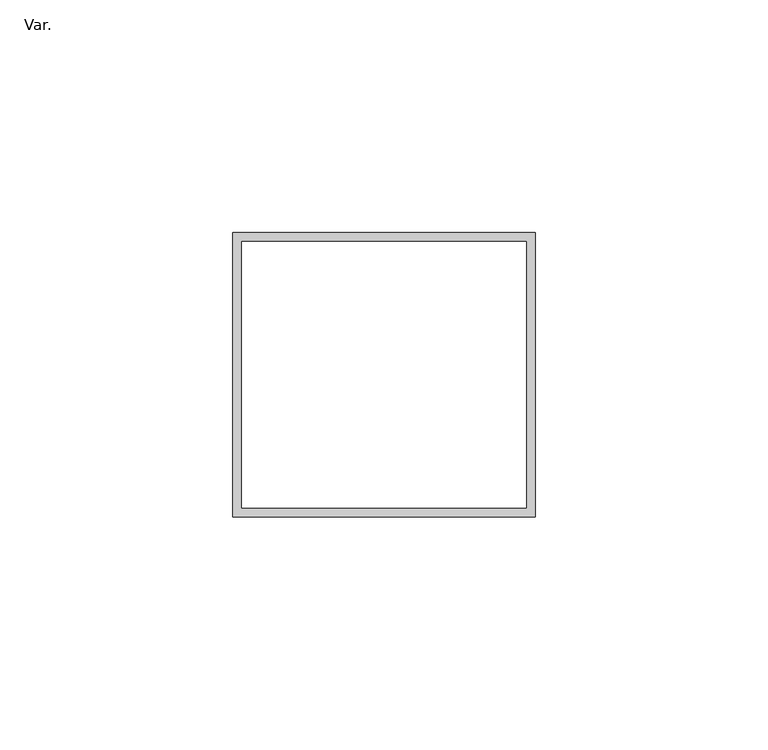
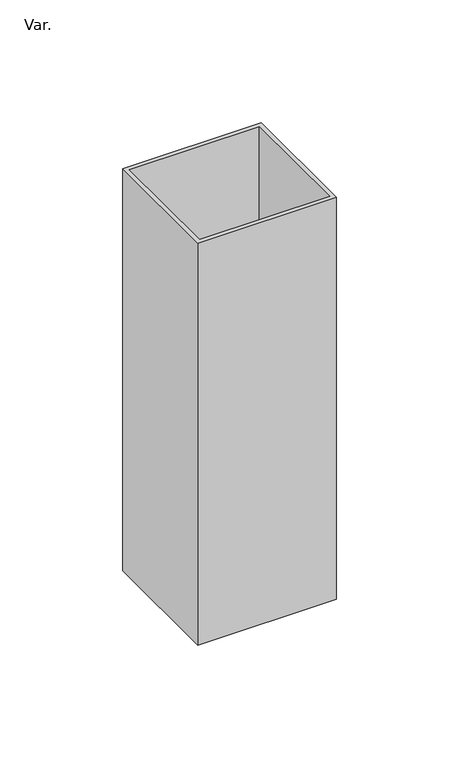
"""IFC4 building model written with IfcOpenShell, lengths in millimetres: pipe fitting geometry, PlastigamaWavin_Unionesdetubería_CanalesyBajantesZ_NoUsarBajante : Var.."""

import ifcopenshell
import ifcopenshell.guid

model = None  # the IFC model being written
_history = None  # IfcOwnerHistory: only IFC2X3 demands one
_inside = {}  # id of a spatial element -> (the spatial element, [elements in it])
_under = {}  # id of a project, library or spatial element -> (it, [spatial elements below it])
_declared = {}  # id of a project -> (the project, [libraries it declares])
_typed = {}  # id of a type object -> (the type object, [elements of that type])
_made_of = {}  # id of a material, layer set ... -> (it, [elements and type objects made of it])


def new_model(schema):
    """Start an empty IFC model of exactly this schema.

    Asked for "IFC4X3", IfcOpenShell would pick the latest addendum, in which some entities
    have other attributes; the version numbers below select the first issue.
    IFC2X3 requires an IfcOwnerHistory on every rooted entity: one is made here for all.
    """
    global model, _history
    if schema == "IFC4X3":
        model = ifcopenshell.file(schema_version=(4, 3, 0, 0))
    else:
        model = ifcopenshell.file(schema=schema)
    _inside.clear()
    _under.clear()
    _declared.clear()
    _typed.clear()
    _made_of.clear()
    _history = None
    if model.schema == "IFC2X3":
        org = make("IfcOrganization", Name="unknown")
        user = make(
            "IfcPersonAndOrganization",
            ThePerson=make("IfcPerson", FamilyName="unknown"),
            TheOrganization=org,
        )
        app = make(
            "IfcApplication",
            ApplicationDeveloper=org,
            Version="unknown",
            ApplicationFullName="unknown",
            ApplicationIdentifier="unknown",
        )
        _history = make(
            "IfcOwnerHistory",
            OwningUser=user,
            OwningApplication=app,
            ChangeAction="ADDED",
            CreationDate=0,
        )
    return model


def make(cls, **values):
    """One entity of the class cls with the attributes given. An attribute that is None is left unset."""
    return model.create_entity(
        cls, **{name: value for name, value in values.items() if value is not None}
    )


def rooted(cls, **values):
    """An entity with a GlobalId (a new one), such as an element, a storey or a relation."""
    return make(cls, GlobalId=ifcopenshell.guid.new(), OwnerHistory=_history, **values)


def si_unit(unit_type, name, prefix=None):
    """IfcSIUnit, for example si_unit("LENGTHUNIT", "METRE", prefix="MILLI")."""
    return make("IfcSIUnit", UnitType=unit_type, Prefix=prefix, Name=name)


def assignment(units):
    """IfcUnitAssignment: the units of a project."""
    return None if units is None else make("IfcUnitAssignment", Units=units)


def point(xyz):
    """IfcCartesianPoint."""
    return None if xyz is None else make("IfcCartesianPoint", Coordinates=xyz)


def direction(xyz):
    """IfcDirection."""
    return None if xyz is None else make("IfcDirection", DirectionRatios=xyz)


def frame(location, z_axis=None, x_axis=None):
    """IfcAxis2Placement3D, a coordinate frame: its origin and axes. An axis left out is left unset."""
    return make(
        "IfcAxis2Placement3D",
        Location=point(location),
        Axis=direction(z_axis),
        RefDirection=direction(x_axis),
    )


def origin():
    """The frame at (0, 0, 0) with its axes left unset."""
    return frame((0.0, 0.0, 0.0))


def place(relative_to, where):
    """IfcLocalPlacement: puts the frame where relative to a parent placement (None: the world)."""
    return make(
        "IfcLocalPlacement", PlacementRelTo=relative_to, RelativePlacement=where
    )


def context(
    kind, dimensions, precision=None, world=None, true_north=None, identifier=None
):
    """IfcGeometricRepresentationContext, for example the 3D "Model" context."""
    return make(
        "IfcGeometricRepresentationContext",
        ContextIdentifier=identifier,
        ContextType=kind,
        CoordinateSpaceDimension=dimensions,
        Precision=precision,
        WorldCoordinateSystem=world,
        TrueNorth=true_north,
    )


def project(units=None, contexts=None):
    """IfcProject with its units and contexts."""
    return rooted(
        "IfcProject",
        Name="project",
        RepresentationContexts=contexts,
        UnitsInContext=assignment(units),
    )


def spatial(cls, under=None, at=None, **own):
    """A site, building, storey or space (cls), placed at a placement, below another one or the project."""
    s = rooted(cls, ObjectPlacement=at, **own)
    if under is not None:
        _under.setdefault(under.id(), (under, []))[1].append(s)
    return s


def polyline(points):
    """IfcPolyline through the points."""
    return make("IfcPolyline", Points=[point(p) for p in points])


def outline(outer, holes=None, kind="AREA"):
    """IfcArbitraryClosedProfileDef: a profile drawn as a closed curve; with holes, ...WithVoids."""
    if holes is None:
        return make("IfcArbitraryClosedProfileDef", ProfileType=kind, OuterCurve=outer)
    return make(
        "IfcArbitraryProfileDefWithVoids",
        ProfileType=kind,
        OuterCurve=outer,
        InnerCurves=holes,
    )


def extrude(swept, where, along, depth):
    """IfcExtrudedAreaSolid: the profile swept, set in the frame where, extruded along a direction by depth."""
    return make(
        "IfcExtrudedAreaSolid",
        SweptArea=swept,
        Position=where,
        ExtrudedDirection=direction(along),
        Depth=depth,
    )


def shape(context_of_items, identifier, shape_type, items):
    """IfcShapeRepresentation: the items that make up one representation, for example the "Body"."""
    return make(
        "IfcShapeRepresentation",
        ContextOfItems=context_of_items,
        RepresentationIdentifier=identifier,
        RepresentationType=shape_type,
        Items=items,
    )


def source(mapping_origin, context_of_items, identifier, shape_type, items):
    """IfcRepresentationMap: a shape defined once, which mapped items show again and again."""
    return make(
        "IfcRepresentationMap",
        MappingOrigin=mapping_origin,
        MappedRepresentation=shape(context_of_items, identifier, shape_type, items),
    )


def transform(
    local_origin,
    x_axis=None,
    y_axis=None,
    z_axis=None,
    scale=None,
    scale2=None,
    scale3=None,
    uniform=True,
):
    """IfcCartesianTransformationOperator3D, or its non-uniform kind. x_axis, y_axis, z_axis: its Axis1, 2, 3."""
    if uniform:
        return make(
            "IfcCartesianTransformationOperator3D",
            Axis1=direction(x_axis),
            Axis2=direction(y_axis),
            LocalOrigin=point(local_origin),
            Scale=scale,
            Axis3=direction(z_axis),
        )
    return make(
        "IfcCartesianTransformationOperator3DnonUniform",
        Axis1=direction(x_axis),
        Axis2=direction(y_axis),
        LocalOrigin=point(local_origin),
        Scale=scale,
        Axis3=direction(z_axis),
        Scale2=scale2,
        Scale3=scale3,
    )


def mapped(mapping_source, mapping_target):
    """IfcMappedItem: shows the shape of a source again, moved by a transform."""
    return make(
        "IfcMappedItem", MappingSource=mapping_source, MappingTarget=mapping_target
    )


def made_of(thing, what):
    """Note that an element or type object is made of a material, layer set ...; save() writes the relation."""
    if what is not None:
        _made_of.setdefault(what.id(), (what, []))[1].append(thing)
    return thing


def element(
    cls,
    number,
    at=None,
    inside=None,
    cuts=None,
    type_object=None,
    material=None,
    context=None,
    identifier="Body",
    shape_type=None,
    held_by="IfcProductDefinitionShape",
    body=None,
    shapes=None,
    **own,
):
    """One element of the class cls, such as IfcWall. Its Tag is "e" and its number.

    at: its placement. inside: the storey or other place that contains it. cuts: it is an
    opening in that element (IfcRelVoidsElement). A single representation is given by context,
    identifier, shape_type and body (its items); several are given by shapes. held_by: the class
    of the entity that holds the representations. save() writes the other relations.
    """
    e = rooted(cls, Tag="e%d" % number, ObjectPlacement=at, **own)
    if body is not None:
        shapes = [shape(context, identifier, shape_type, body)]
    if shapes is not None:
        e.Representation = make(held_by, Representations=shapes)
    if inside is not None:
        _inside.setdefault(inside.id(), (inside, []))[1].append(e)
    if cuts is not None:
        rooted(
            "IfcRelVoidsElement", RelatingBuildingElement=cuts, RelatedOpeningElement=e
        )
    if type_object is not None:
        _typed.setdefault(type_object.id(), (type_object, []))[1].append(e)
    return made_of(e, material)


def aggregate(whole, parts):
    """IfcRelAggregates: a whole, such as a stair, and the parts it consists of."""
    return rooted("IfcRelAggregates", RelatingObject=whole, RelatedObjects=parts)


def save(model, path):
    """Write the relations noted so far, then the file.

    IfcRelAggregates (storeys below a building ...), IfcRelContainedInSpatialStructure (elements
    in a storey), IfcRelDefinesByType, IfcRelAssociatesMaterial and IfcRelDeclares: one each for
    every whole, place, type object, material and project.
    """
    for whole, parts in _under.values():
        aggregate(whole, parts)
    for where, things in _inside.values():
        rooted(
            "IfcRelContainedInSpatialStructure",
            RelatedElements=things,
            RelatingStructure=where,
        )
    for kind, things in _typed.values():
        rooted("IfcRelDefinesByType", RelatedObjects=things, RelatingType=kind)
    for what, things in _made_of.values():
        rooted("IfcRelAssociatesMaterial", RelatedObjects=things, RelatingMaterial=what)
    for by, libraries in _declared.values():
        rooted("IfcRelDeclares", RelatingContext=by, RelatedDefinitions=libraries)
    model.write(path)


def var_6c80722c(model_context):
    return source(origin(), model_context, "Body", "SweptSolid", [
        extrude(outline(polyline([(32.55, 30.605), (32.55, -30.605), (-32.55, -30.605), (-32.55, 30.605), (32.55, 30.605)]), holes=[polyline([(30.57, 28.625), (-30.57, 28.625), (-30.57, -28.625), (30.57, -28.625), (30.57, 28.625)])]), frame((0.0, 0.0, -200.0), z_axis=(0.0, 0.0, 1.0), x_axis=(1.0, 0.0, 0.0)), (0.0, 0.0, 1.0), 200.0),
    ])


if __name__ == "__main__":
    model = new_model("IFC4")
    model_context = context("Model", 3, world=origin())
    ifc_project = project(units=[si_unit("LENGTHUNIT", "METRE", prefix="MILLI")], contexts=[model_context])
    site = spatial("IfcSite", under=ifc_project)
    building = spatial("IfcBuilding", under=site)
    placement = place(None, origin())
    var_shape = var_6c80722c(model_context)
    element("IfcPipeFitting", 1, ObjectType="PlastigamaWavin_Unionesdetubería_CanalesyBajantesZ_NoUsarBajante : Var.", at=placement, inside=building, context=model_context, shape_type="MappedRepresentation", body=[
        mapped(var_shape, transform((0.0, 0.0, 0.0), x_axis=(1.0, 0.0, 0.0), y_axis=(0.0, 1.0, 0.0), z_axis=(0.0, 0.0, 1.0))),
    ])
    save(model, "model.ifc")
